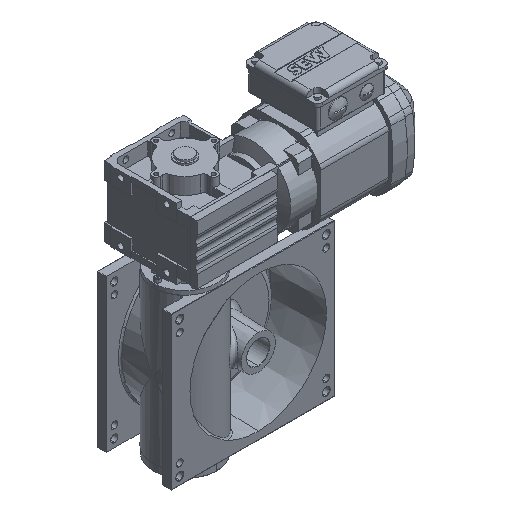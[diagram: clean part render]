
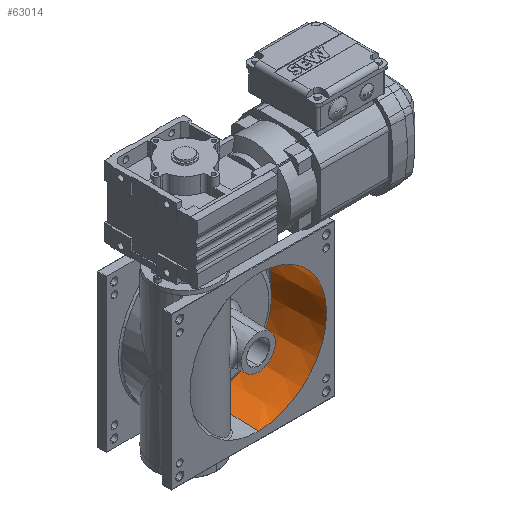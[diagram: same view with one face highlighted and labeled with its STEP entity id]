
A CAD part, isometric view. The second image highlights one B-rep face of the part: STEP entity #63014.
In plain terms, the highlighted conical face has half-angle 2 degrees and reference radius 104.105 mm.
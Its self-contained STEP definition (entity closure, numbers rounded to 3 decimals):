
#250 = ORIENTED_EDGE ( 'NONE', *, *, #29462, .F. ) ;
#836 = VECTOR ( 'NONE', #19563, 1000. ) ;
#2514 = VECTOR ( 'NONE', #14204, 1000. ) ;
#3084 = CARTESIAN_POINT ( 'NONE',  ( 0., 0., 0. ) ) ;
#5702 = EDGE_CURVE ( 'NONE', #69360, #11105, #63132, .T. ) ;
#6960 = DIRECTION ( 'NONE',  ( 0., 1., 0. ) ) ;
#9140 = ORIENTED_EDGE ( 'NONE', *, *, #5702, .T. ) ;
#11105 = VERTEX_POINT ( 'NONE', #58271 ) ;
#11969 = CARTESIAN_POINT ( 'NONE',  ( 0., 84.705, 0. ) ) ;
#13652 = CIRCLE ( 'NONE', #64649, 101.147 ) ;
#14204 = DIRECTION ( 'NONE',  ( 0., -0.999, -0.035 ) ) ;
#19563 = DIRECTION ( 'NONE',  ( 0., -0.999, 0.035 ) ) ;
#23006 = DIRECTION ( 'NONE',  ( 0., 0., -1. ) ) ;
#29462 = EDGE_CURVE ( 'NONE', #60377, #69460, #51889, .T. ) ;
#30443 = ORIENTED_EDGE ( 'NONE', *, *, #42371, .T. ) ;
#31854 = ORIENTED_EDGE ( 'NONE', *, *, #65630, .F. ) ;
#31860 = DIRECTION ( 'NONE',  ( 0., 0., -1. ) ) ;
#34333 = DIRECTION ( 'NONE',  ( 0., 1., 0. ) ) ;
#38445 = CARTESIAN_POINT ( 'NONE',  ( 0., 3., 104. ) ) ;
#39656 = AXIS2_PLACEMENT_3D ( 'NONE', #50370, #6960, #23006 ) ;
#41549 = CARTESIAN_POINT ( 'NONE',  ( 0., 0., -104.105 ) ) ;
#42371 = EDGE_CURVE ( 'NONE', #60377, #69360, #13652, .T. ) ;
#44984 = DIRECTION ( 'NONE',  ( 0., 0., 1. ) ) ;
#46493 = CARTESIAN_POINT ( 'NONE',  ( 0., 84.705, 101.147 ) ) ;
#50370 = CARTESIAN_POINT ( 'NONE',  ( 0., 3., 0. ) ) ;
#51889 = LINE ( 'NONE', #68120, #836 ) ;
#52857 = DIRECTION ( 'NONE',  ( 0., -1., 0. ) ) ;
#55235 = CONICAL_SURFACE ( 'NONE', #69875, 104.105, 0.035 ) ;
#56767 = FACE_OUTER_BOUND ( 'NONE', #66777, .T. ) ;
#58271 = CARTESIAN_POINT ( 'NONE',  ( 0., 3., -104. ) ) ;
#60377 = VERTEX_POINT ( 'NONE', #46493 ) ;
#63014 = ADVANCED_FACE ( 'NONE', ( #56767 ), #55235, .F. ) ;
#63132 = LINE ( 'NONE', #41549, #2514 ) ;
#64649 = AXIS2_PLACEMENT_3D ( 'NONE', #11969, #34333, #44984 ) ;
#65630 = EDGE_CURVE ( 'NONE', #69460, #11105, #66771, .T. ) ;
#66226 = CARTESIAN_POINT ( 'NONE',  ( 0., 84.705, -101.147 ) ) ;
#66771 = CIRCLE ( 'NONE', #39656, 104. ) ;
#66777 = EDGE_LOOP ( 'NONE', ( #250, #30443, #9140, #31854 ) ) ;
#68120 = CARTESIAN_POINT ( 'NONE',  ( 0., 0., 104.105 ) ) ;
#69360 = VERTEX_POINT ( 'NONE', #66226 ) ;
#69460 = VERTEX_POINT ( 'NONE', #38445 ) ;
#69875 = AXIS2_PLACEMENT_3D ( 'NONE', #3084, #52857, #31860 ) ;
